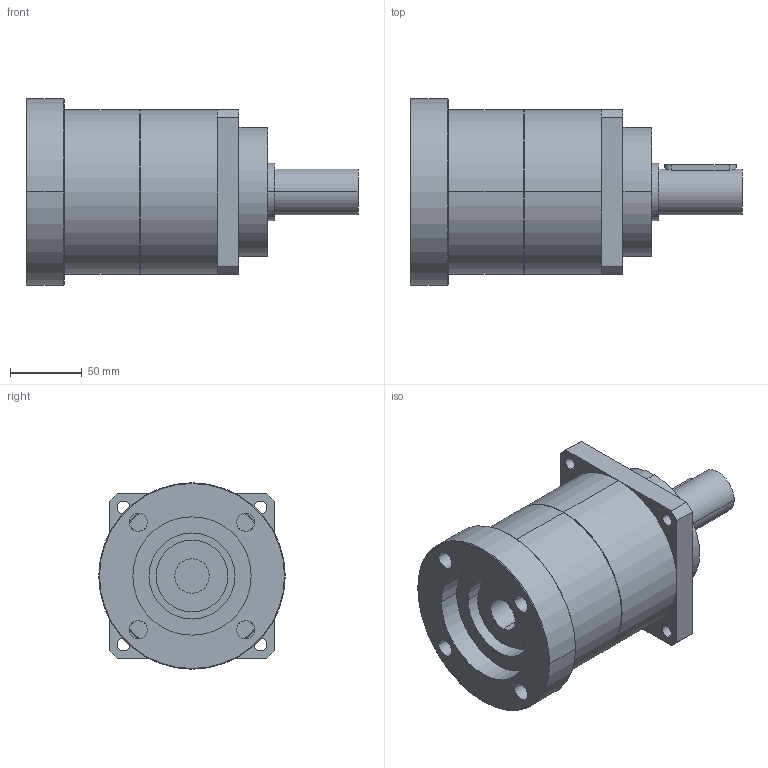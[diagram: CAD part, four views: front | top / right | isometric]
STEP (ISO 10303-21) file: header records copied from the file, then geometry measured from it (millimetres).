
FILE_DESCRIPTION(('CoCreate Modeling STEP Export'),'2;1');
FILE_NAME('GPT120_ig-3-4-5-7-10_32_B5A_24_P21.stp','2015-02-04T17:00:00',(''),(''),'CoCreate Modeling STEP processor for AP214 (Solid Model)','CoCreate Modeling 16.00C 25-Feb-2009 (C) Parametric Technology GmbH','');
FILE_SCHEMA(('AUTOMOTIVE_DESIGN { 1 0 10303 214 1 1 1 1 }'));
Length unit declared in the file: millimetre
Products named in the file (2): GPT120_ig-3-4-5-7-10_32_B5A_24_P21
Assembly tree (1 placements, depth 2):
  GPT120_ig-3-4-5-7-10_32_B5A_24_P21
    GPT120_ig-3-4-5-7-10_32_B5A_24_P21
Bounding box: 231.5 x 130 x 130 mm (x, y, z)
Volume: 1698324.1 mm3; surface area: 118580.6 mm2
Topology: 1 solids, 1 shells, 79 faces, 204 edges, 133 vertices
Faces by surface type: cylinder 44, plane 27, cone 8
Entity records: 2494 total; most frequent: CARTESIAN_POINT 739, ORIENTED_EDGE 408, DIRECTION 302, EDGE_CURVE 204, VERTEX_POINT 133, AXIS2_PLACEMENT_3D 114, EDGE_LOOP 101, FACE_OUTER_BOUND 79
